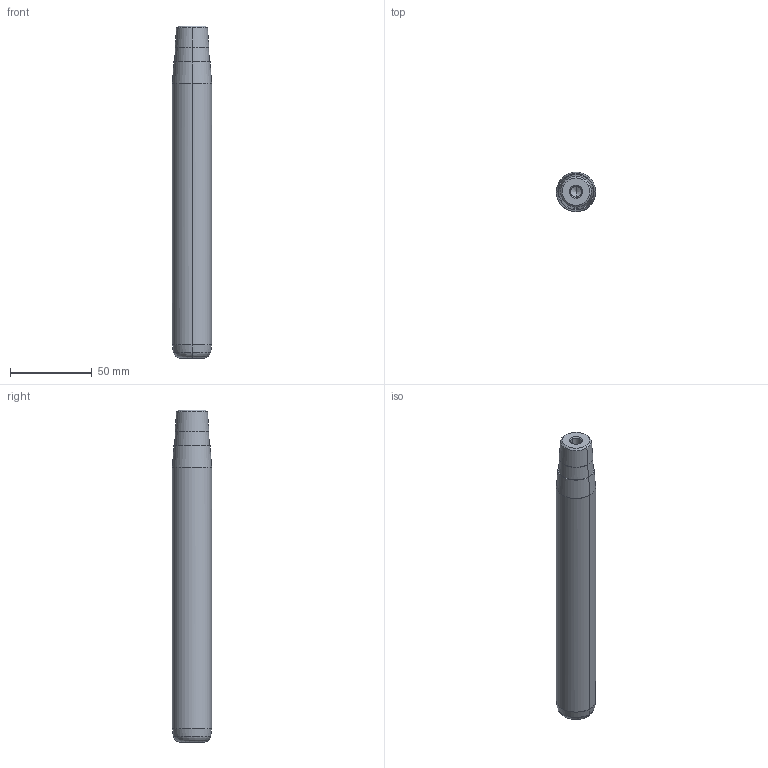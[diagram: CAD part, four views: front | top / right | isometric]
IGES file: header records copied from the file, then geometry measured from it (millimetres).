
Start section: START RECORD GO HERE.
Global section: file name: 722-24x180x203.igs; native system: DASSAULT SYSTEMES CATIA V5 R20 - www.3ds.com; preprocessor: CATIA Version 5 Release 20 ; author: Utente; organization: NB04-ASUS; date: 20210109.093321; units: millimetre
Bounding box: 24 x 24 x 203 mm (x, y, z)
Surface area: 16630.3 mm2 (no closed solid volume)
Topology: 0 solids, 0 shells, 32 faces, 192 edges, 188 vertices
Faces by surface type: revolution 30, plane 2
